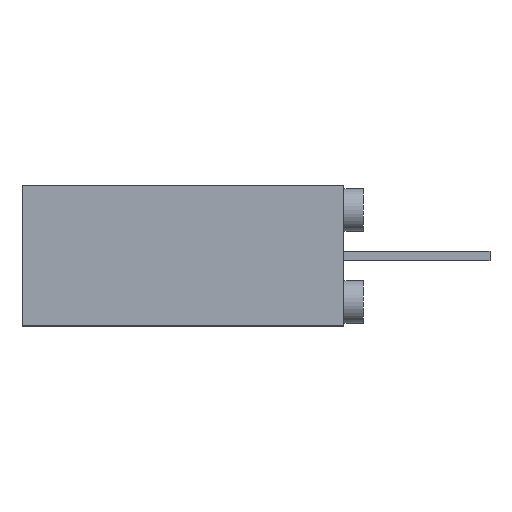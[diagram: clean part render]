
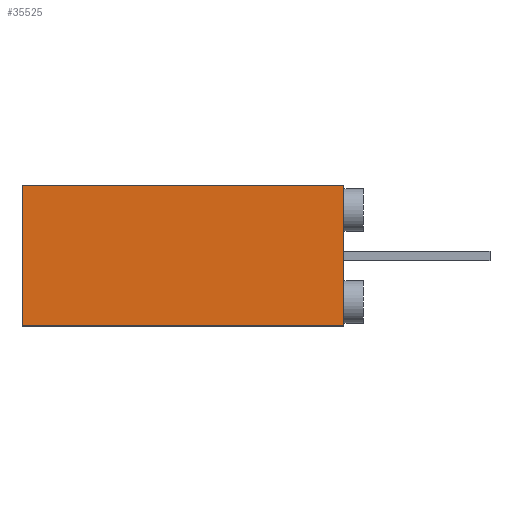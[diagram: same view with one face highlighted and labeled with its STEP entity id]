
A CAD part, left-side view. The second image highlights one B-rep face of the part: STEP entity #35525.
In plain terms, the highlighted planar face has unit normal (-1, 0.004, 0).
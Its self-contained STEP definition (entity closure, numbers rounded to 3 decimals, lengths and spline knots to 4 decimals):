
#12563 = DIRECTION ( 'NONE',  ( -0.004, -1., 0. ) ) ;
#12565 = VECTOR ( 'NONE', #12563, 1000. ) ;
#12567 = CARTESIAN_POINT ( 'NONE',  ( -7.5134, 8.3942, -1.8134 ) ) ;
#12569 = LINE ( 'NONE', #12567, #12565 ) ;
#12574 = CARTESIAN_POINT ( 'NONE',  ( -7.5134, 8.3942, -1.8134 ) ) ;
#12576 = CARTESIAN_POINT ( 'NONE',  ( -7.55, 0.0022, -1.8134 ) ) ;
#12578 = DIRECTION ( 'NONE',  ( 0.004, 1., 0. ) ) ;
#12580 = VECTOR ( 'NONE', #12578, 1000. ) ;
#12581 = CARTESIAN_POINT ( 'NONE',  ( -7.5134, 8.3942, 1.85 ) ) ;
#12583 = LINE ( 'NONE', #12581, #12580 ) ;
#12623 = CARTESIAN_POINT ( 'NONE',  ( -7.55, 0.0022, 1.85 ) ) ;
#12652 = CARTESIAN_POINT ( 'NONE',  ( -7.5134, 8.3942, 1.85 ) ) ;
#12653 = DIRECTION ( 'NONE',  ( 0., 0., 1. ) ) ;
#12655 = VECTOR ( 'NONE', #12653, 1000. ) ;
#12656 = CARTESIAN_POINT ( 'NONE',  ( -7.55, 0.0022, -1.8134 ) ) ;
#12658 = LINE ( 'NONE', #12656, #12655 ) ;
#12685 = VECTOR ( 'NONE', #12809, 1000. ) ;
#12687 = CARTESIAN_POINT ( 'NONE',  ( -7.5134, 8.3942, -1.8134 ) ) ;
#12688 = LINE ( 'NONE', #12687, #12685 ) ;
#12763 = DIRECTION ( 'NONE',  ( -0.004, -1., 0. ) ) ;
#12765 = DIRECTION ( 'NONE',  ( -1., 0.004, 0. ) ) ;
#12767 = CARTESIAN_POINT ( 'NONE',  ( -7.55, 0.0022, -1.8134 ) ) ;
#12769 = AXIS2_PLACEMENT_3D ( 'NONE', #12767, #12765, #12763 ) ;
#12797 = PLANE ( 'NONE',  #12769 ) ;
#12803 = FACE_OUTER_BOUND ( 'NONE', #35520, .T. ) ;
#12809 = DIRECTION ( 'NONE',  ( 0., 0., -1. ) ) ;
#35264 = ORIENTED_EDGE ( 'NONE', *, *, #35492, .T. ) ;
#35319 = ORIENTED_EDGE ( 'NONE', *, *, #35481, .T. ) ;
#35321 = ORIENTED_EDGE ( 'NONE', *, *, #35519, .T. ) ;
#35481 = EDGE_CURVE ( 'NONE', #35509, #35495, #12583, .T. ) ;
#35484 = VERTEX_POINT ( 'NONE', #12576 ) ;
#35485 = VERTEX_POINT ( 'NONE', #12574 ) ;
#35487 = EDGE_CURVE ( 'NONE', #35485, #35484, #12569, .T. ) ;
#35492 = EDGE_CURVE ( 'NONE', #35484, #35509, #12658, .T. ) ;
#35495 = VERTEX_POINT ( 'NONE', #12652 ) ;
#35509 = VERTEX_POINT ( 'NONE', #12623 ) ;
#35519 = EDGE_CURVE ( 'NONE', #35495, #35485, #12688, .T. ) ;
#35520 = EDGE_LOOP ( 'NONE', ( #35528, #35264, #35319, #35321 ) ) ;
#35525 = ADVANCED_FACE ( 'NONE', ( #12803 ), #12797, .T. ) ;
#35528 = ORIENTED_EDGE ( 'NONE', *, *, #35487, .T. ) ;
